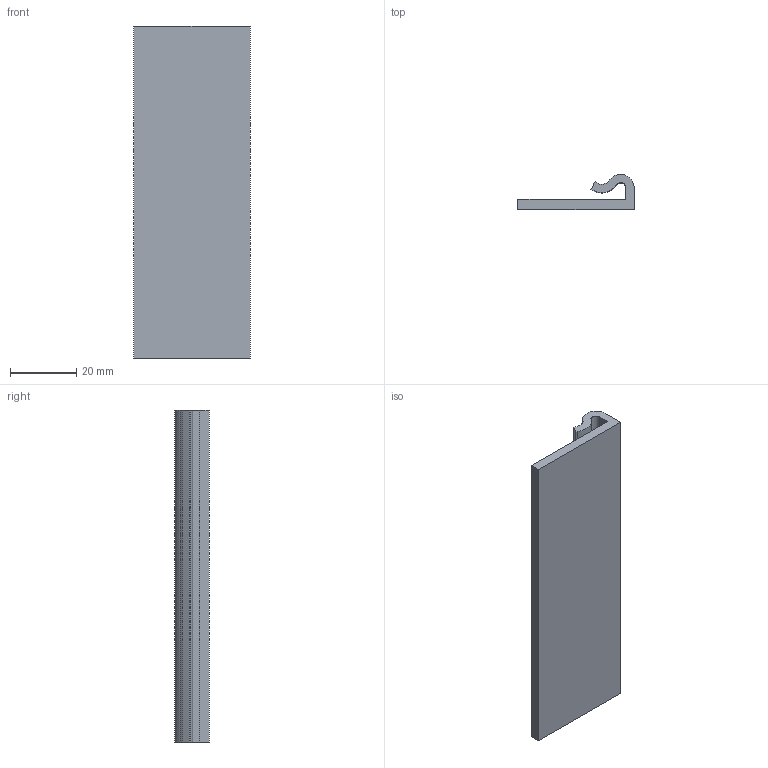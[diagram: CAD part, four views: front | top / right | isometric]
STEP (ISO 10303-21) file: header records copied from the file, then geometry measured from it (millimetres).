
FILE_DESCRIPTION (( 'STEP AP203' ), '1' );
FILE_NAME ('800.100.102.STEP', '2013-01-29T14:59:40', ( 'Alusic' ), ( 'Alusic' ), 'SwSTEP 2.0', 'SolidWorks 2011', '' );
FILE_SCHEMA (( 'CONFIG_CONTROL_DESIGN' ));
Length unit declared in the file: millimetre
Products named in the file (1): 800.100.102
Bounding box: 35 x 10.49 x 100 mm (x, y, z)
Volume: 14842.8 mm3; surface area: 11371.1 mm2
Topology: 1 solids, 1 shells, 14 faces, 36 edges, 24 vertices
Faces by surface type: plane 10, cylinder 4
Entity records: 505 total; most frequent: CARTESIAN_POINT 75, DIRECTION 74, ORIENTED_EDGE 72, EDGE_CURVE 36, VECTOR 28, LINE 28, VERTEX_POINT 24, AXIS2_PLACEMENT_3D 23
